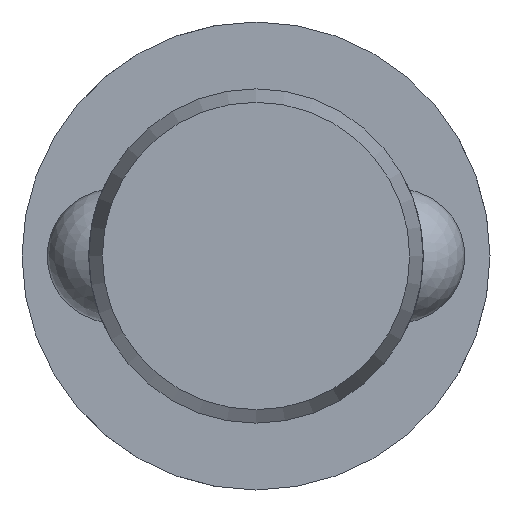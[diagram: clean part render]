
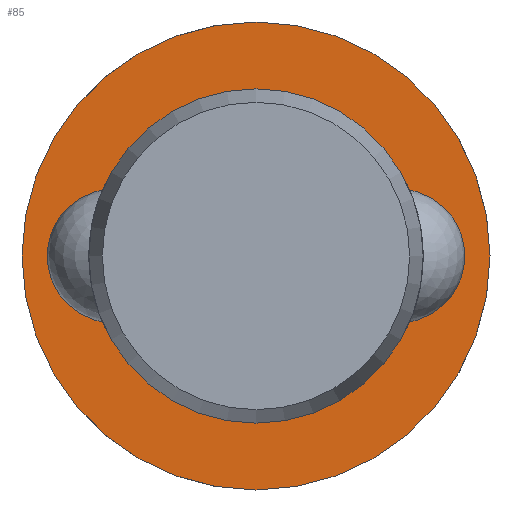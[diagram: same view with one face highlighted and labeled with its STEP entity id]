
A CAD part, left-side view. The second image highlights one B-rep face of the part: STEP entity #85.
In plain terms, the highlighted planar face has unit normal (-1, 0, 0).
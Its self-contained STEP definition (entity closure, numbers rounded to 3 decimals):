
#85 = ADVANCED_FACE( '', ( #131, #132 ), #133, .F. );
#131 = FACE_OUTER_BOUND( '', #204, .T. );
#132 = FACE_BOUND( '', #205, .T. );
#133 = PLANE( '', #206 );
#204 = EDGE_LOOP( '', ( #322 ) );
#205 = EDGE_LOOP( '', ( #323 ) );
#206 = AXIS2_PLACEMENT_3D( '', #324, #325, #326 );
#322 = ORIENTED_EDGE( '', *, *, #470, .F. );
#323 = ORIENTED_EDGE( '', *, *, #467, .T. );
#324 = CARTESIAN_POINT( '', ( 130.5, 10., 0. ) );
#325 = DIRECTION( '', ( 1., 0., 0. ) );
#326 = DIRECTION( '', ( 0., 0., -1. ) );
#467 = EDGE_CURVE( '', #541, #541, #542, .T. );
#470 = EDGE_CURVE( '', #547, #547, #548, .T. );
#541 = VERTEX_POINT( '', #777 );
#542 = CIRCLE( '', #778, 10. );
#547 = VERTEX_POINT( '', #909 );
#548 = CIRCLE( '', #910, 14. );
#777 = CARTESIAN_POINT( '', ( 130.5, 0., -10. ) );
#778 = AXIS2_PLACEMENT_3D( '', #989, #990, #991 );
#909 = CARTESIAN_POINT( '', ( 130.5, 0., -14. ) );
#910 = AXIS2_PLACEMENT_3D( '', #992, #993, #994 );
#989 = CARTESIAN_POINT( '', ( 130.5, 0., 0. ) );
#990 = DIRECTION( '', ( 1., 0., 0. ) );
#991 = DIRECTION( '', ( 0., 0., -1. ) );
#992 = CARTESIAN_POINT( '', ( 130.5, 0., 0. ) );
#993 = DIRECTION( '', ( 1., 0., 0. ) );
#994 = DIRECTION( '', ( 0., 0., -1. ) );
